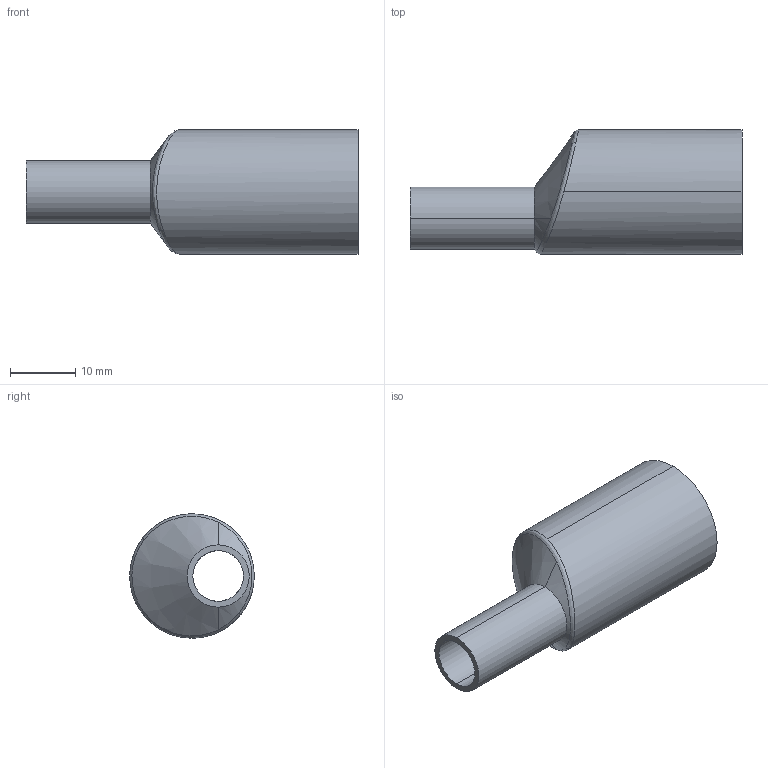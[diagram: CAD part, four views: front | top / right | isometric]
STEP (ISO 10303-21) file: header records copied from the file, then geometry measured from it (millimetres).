
FILE_DESCRIPTION (( 'STEP AP214' ), '1' );
FILE_NAME ('TE32SWW6L.75x.375-...STEP', '2016-06-01T07:31:12', ( 'eran' ), ( '' ), 'SwSTEP 2.0', 'SolidWorks 2016', '' );
FILE_SCHEMA (( 'AUTOMOTIVE_DESIGN' ));
Length unit declared in the file: millimetre
Products named in the file (1): TE32SWW6L.75x.375-..
Bounding box: 50.8 x 19.05 x 19.05 mm (x, y, z)
Volume: 5293.8 mm3; surface area: 4279.4 mm2
Topology: 1 solids, 1 shells, 22 faces, 48 edges, 28 vertices
Faces by surface type: cylinder 10, cone 6, torus 2, bspline 2, plane 2
Entity records: 1210 total; most frequent: CARTESIAN_POINT 716, ORIENTED_EDGE 96, DIRECTION 93, EDGE_CURVE 48, AXIS2_PLACEMENT_3D 40, VERTEX_POINT 28, EDGE_LOOP 24, ADVANCED_FACE 22
